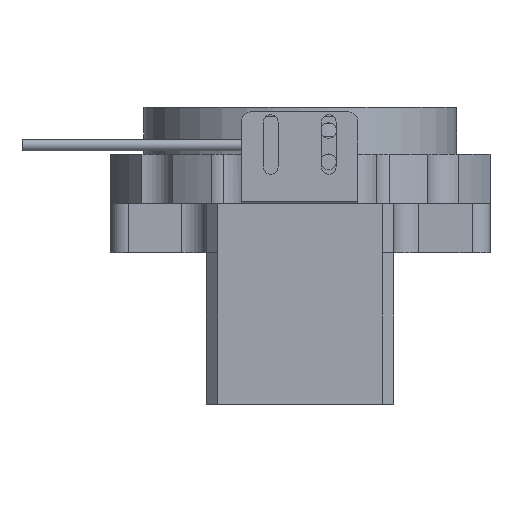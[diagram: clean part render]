
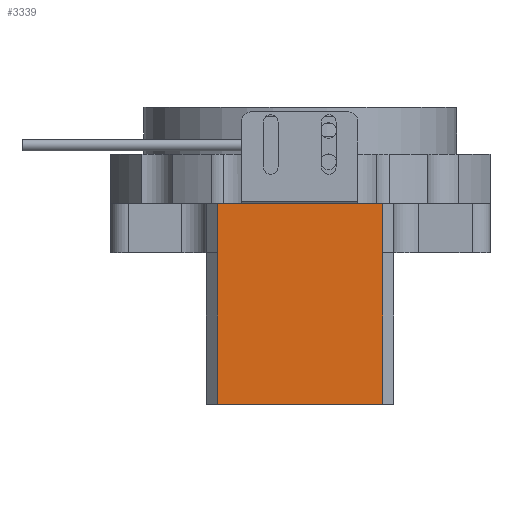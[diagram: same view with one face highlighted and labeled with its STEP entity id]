
A CAD part, front view. The second image highlights one B-rep face of the part: STEP entity #3339.
In plain terms, the highlighted planar face has unit normal (0, -1, 0).
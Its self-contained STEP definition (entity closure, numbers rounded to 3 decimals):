
#6 = DIRECTION ( 'NONE',  ( 1., 0., 0. ) ) ;
#139 = EDGE_CURVE ( 'NONE', #5290, #964, #2209, .T. ) ;
#479 = LINE ( 'NONE', #8510, #4800 ) ;
#520 = LINE ( 'NONE', #1926, #838 ) ;
#743 = EDGE_CURVE ( 'NONE', #5290, #8087, #520, .T. ) ;
#754 = VERTEX_POINT ( 'NONE', #4601 ) ;
#838 = VECTOR ( 'NONE', #3295, 1000. ) ;
#907 = VECTOR ( 'NONE', #4795, 1000. ) ;
#964 = VERTEX_POINT ( 'NONE', #1430 ) ;
#1068 = ORIENTED_EDGE ( 'NONE', *, *, #139, .T. ) ;
#1301 = CARTESIAN_POINT ( 'NONE',  ( 1.655, -54.161, 11.75 ) ) ;
#1355 = VERTEX_POINT ( 'NONE', #1301 ) ;
#1430 = CARTESIAN_POINT ( 'NONE',  ( 1.655, -54.161, 0.75 ) ) ;
#1498 = CARTESIAN_POINT ( 'NONE',  ( 1.655, -54.161, 0.75 ) ) ;
#1874 = CARTESIAN_POINT ( 'NONE',  ( 1.655, -54.161, 11.75 ) ) ;
#1882 = CARTESIAN_POINT ( 'NONE',  ( -35.345, -54.161, 11.75 ) ) ;
#1926 = CARTESIAN_POINT ( 'NONE',  ( 4.155, -54.161, -33.25 ) ) ;
#2209 = LINE ( 'NONE', #1498, #2937 ) ;
#2275 = CARTESIAN_POINT ( 'NONE',  ( 1.655, -54.161, -33.25 ) ) ;
#2344 = FACE_OUTER_BOUND ( 'NONE', #5329, .T. ) ;
#2427 = ORIENTED_EDGE ( 'NONE', *, *, #7016, .T. ) ;
#2437 = ORIENTED_EDGE ( 'NONE', *, *, #3137, .T. ) ;
#2553 = VERTEX_POINT ( 'NONE', #1882 ) ;
#2603 = CARTESIAN_POINT ( 'NONE',  ( -16.845, -54.161, 33.25 ) ) ;
#2937 = VECTOR ( 'NONE', #6826, 1000. ) ;
#3137 = EDGE_CURVE ( 'NONE', #2553, #754, #3521, .T. ) ;
#3295 = DIRECTION ( 'NONE',  ( -1., 0., 0. ) ) ;
#3339 = ADVANCED_FACE ( 'NONE', ( #2344 ), #8395, .F. ) ;
#3521 = LINE ( 'NONE', #7435, #907 ) ;
#3671 = AXIS2_PLACEMENT_3D ( 'NONE', #2603, #6508, #6 ) ;
#3720 = VECTOR ( 'NONE', #8544, 1000. ) ;
#4275 = VECTOR ( 'NONE', #8297, 1000. ) ;
#4313 = CARTESIAN_POINT ( 'NONE',  ( -35.345, -54.161, -33.25 ) ) ;
#4601 = CARTESIAN_POINT ( 'NONE',  ( -35.345, -54.161, 0.75 ) ) ;
#4788 = LINE ( 'NONE', #5541, #4275 ) ;
#4795 = DIRECTION ( 'NONE',  ( 0., 0., -1. ) ) ;
#4800 = VECTOR ( 'NONE', #7899, 1000. ) ;
#5116 = ORIENTED_EDGE ( 'NONE', *, *, #7898, .F. ) ;
#5290 = VERTEX_POINT ( 'NONE', #2275 ) ;
#5329 = EDGE_LOOP ( 'NONE', ( #2437, #2427, #7398, #1068, #6677, #5116 ) ) ;
#5541 = CARTESIAN_POINT ( 'NONE',  ( -16.845, -54.161, 11.75 ) ) ;
#6508 = DIRECTION ( 'NONE',  ( 0., 1., 0. ) ) ;
#6677 = ORIENTED_EDGE ( 'NONE', *, *, #8538, .T. ) ;
#6826 = DIRECTION ( 'NONE',  ( 0., 0., 1. ) ) ;
#7016 = EDGE_CURVE ( 'NONE', #754, #8087, #479, .T. ) ;
#7398 = ORIENTED_EDGE ( 'NONE', *, *, #743, .F. ) ;
#7435 = CARTESIAN_POINT ( 'NONE',  ( -35.345, -54.161, 33.25 ) ) ;
#7898 = EDGE_CURVE ( 'NONE', #2553, #1355, #4788, .T. ) ;
#7899 = DIRECTION ( 'NONE',  ( 0., 0., -1. ) ) ;
#8087 = VERTEX_POINT ( 'NONE', #4313 ) ;
#8297 = DIRECTION ( 'NONE',  ( 1., 0., 0. ) ) ;
#8395 = PLANE ( 'NONE',  #3671 ) ;
#8510 = CARTESIAN_POINT ( 'NONE',  ( -35.345, -54.161, 33.25 ) ) ;
#8538 = EDGE_CURVE ( 'NONE', #964, #1355, #8633, .T. ) ;
#8544 = DIRECTION ( 'NONE',  ( 0., 0., 1. ) ) ;
#8633 = LINE ( 'NONE', #1874, #3720 ) ;
